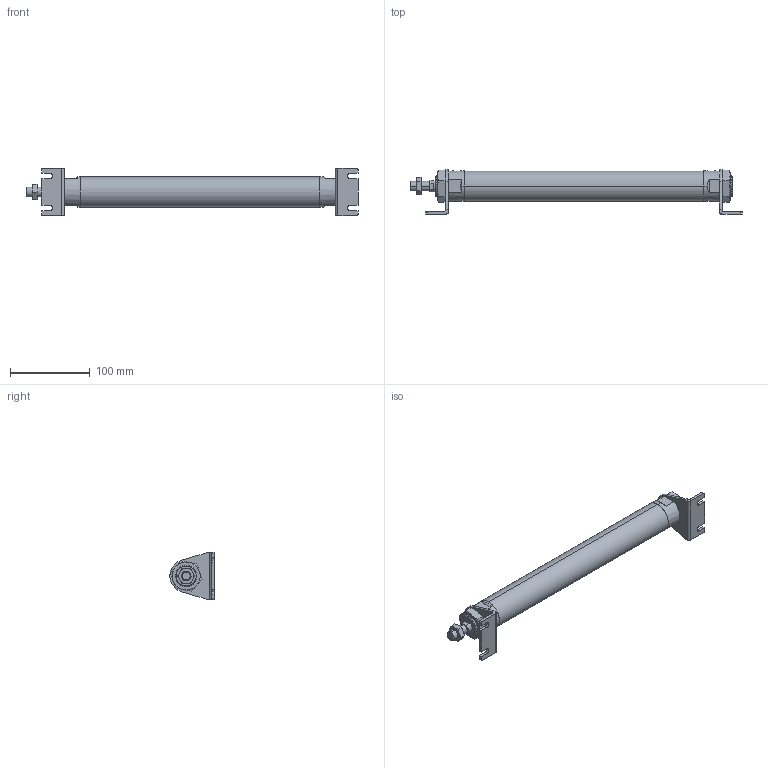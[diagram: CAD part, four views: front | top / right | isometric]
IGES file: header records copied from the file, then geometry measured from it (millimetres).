
Start section: SolidWorks IGES file using analytic representation for surfaces
Global section: file name: C:\Users\Toshiba\Desktop\J#2-32-250-L.IGS; native system: SolidWorks 2014; preprocessor: SolidWorks 2014; author: Toshiba; date: 160310.090209; units: millimetre
Bounding box: 415.2 x 55.5 x 60 mm (x, y, z)
Surface area: 69819.8 mm2 (no closed solid volume)
Topology: 0 solids, 0 shells, 170 faces, 2728 edges, 2724 vertices
Faces by surface type: bspline 107, revolution 63
